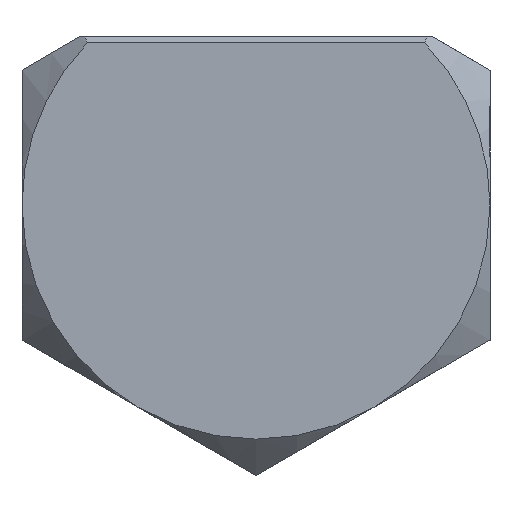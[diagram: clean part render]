
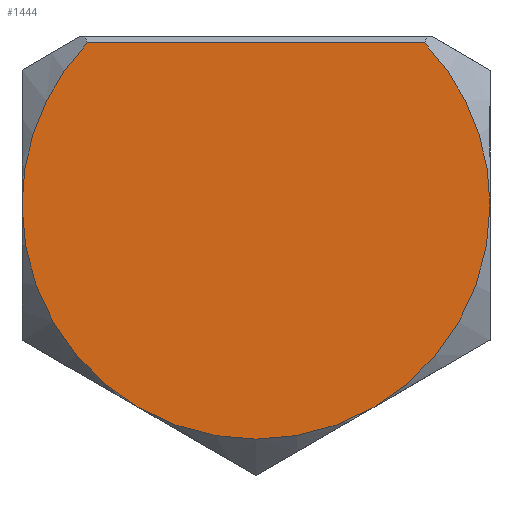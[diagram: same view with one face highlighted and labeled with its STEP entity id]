
A CAD part, front view. The second image highlights one B-rep face of the part: STEP entity #1444.
In plain terms, the highlighted planar face has unit normal (0, -1, 0).
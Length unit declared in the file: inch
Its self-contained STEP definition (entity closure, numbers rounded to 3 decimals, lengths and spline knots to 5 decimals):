
#71=PLANE('',#1595);
#225=FACE_OUTER_BOUND('',#313,.T.);
#313=EDGE_LOOP('',(#1137,#1138,#1139,#1140,#1141,#1142));
#388=LINE('',#2345,#448);
#448=VECTOR('',#1779,0.3937);
#502=CIRCLE('',#1557,0.75);
#518=CIRCLE('',#1587,0.75);
#519=CIRCLE('',#1589,0.75);
#520=CIRCLE('',#1591,0.75);
#521=CIRCLE('',#1594,0.75);
#607=VERTEX_POINT('',#2342);
#608=VERTEX_POINT('',#2344);
#610=VERTEX_POINT('',#2350);
#618=VERTEX_POINT('',#2378);
#626=VERTEX_POINT('',#2407);
#631=VERTEX_POINT('',#2424);
#771=EDGE_CURVE('',#607,#608,#388,.T.);
#775=EDGE_CURVE('',#610,#607,#502,.T.);
#811=EDGE_CURVE('',#608,#631,#518,.T.);
#812=EDGE_CURVE('',#631,#626,#519,.T.);
#813=EDGE_CURVE('',#626,#618,#520,.T.);
#814=EDGE_CURVE('',#618,#610,#521,.T.);
#1137=ORIENTED_EDGE('',*,*,#771,.F.);
#1138=ORIENTED_EDGE('',*,*,#775,.F.);
#1139=ORIENTED_EDGE('',*,*,#814,.F.);
#1140=ORIENTED_EDGE('',*,*,#813,.F.);
#1141=ORIENTED_EDGE('',*,*,#812,.F.);
#1142=ORIENTED_EDGE('',*,*,#811,.F.);
#1444=ADVANCED_FACE('',(#225),#71,.T.);
#1557=AXIS2_PLACEMENT_3D('',#2354,#1786,#1787);
#1587=AXIS2_PLACEMENT_3D('',#2448,#1855,#1856);
#1589=AXIS2_PLACEMENT_3D('',#2450,#1859,#1860);
#1591=AXIS2_PLACEMENT_3D('',#2452,#1863,#1864);
#1594=AXIS2_PLACEMENT_3D('',#2455,#1869,#1870);
#1595=AXIS2_PLACEMENT_3D('',#2456,#1871,#1872);
#1779=DIRECTION('',(1.,0.,0.));
#1786=DIRECTION('center_axis',(0.,1.,0.));
#1787=DIRECTION('ref_axis',(0.,0.,1.));
#1855=DIRECTION('center_axis',(0.,1.,0.));
#1856=DIRECTION('ref_axis',(0.,0.,1.));
#1859=DIRECTION('center_axis',(0.,1.,0.));
#1860=DIRECTION('ref_axis',(0.,0.,1.));
#1863=DIRECTION('center_axis',(0.,1.,0.));
#1864=DIRECTION('ref_axis',(0.,0.,1.));
#1869=DIRECTION('center_axis',(0.,1.,0.));
#1870=DIRECTION('ref_axis',(0.,0.,1.));
#1871=DIRECTION('center_axis',(0.,-1.,0.));
#1872=DIRECTION('ref_axis',(0.,0.,-1.));
#2342=CARTESIAN_POINT('',(-0.54046,0.,0.52));
#2344=CARTESIAN_POINT('',(0.54046,0.,0.52));
#2345=CARTESIAN_POINT('',(0.28235,0.,0.52));
#2350=CARTESIAN_POINT('',(-0.75,0.,0.));
#2354=CARTESIAN_POINT('Origin',(0.,0.,0.));
#2378=CARTESIAN_POINT('',(-0.375,0.,-0.64952));
#2407=CARTESIAN_POINT('',(0.375,0.,-0.64952));
#2424=CARTESIAN_POINT('',(0.75,0.,0.));
#2448=CARTESIAN_POINT('Origin',(0.,0.,0.));
#2450=CARTESIAN_POINT('Origin',(0.,0.,0.));
#2452=CARTESIAN_POINT('Origin',(0.,0.,0.));
#2455=CARTESIAN_POINT('Origin',(0.,0.,0.));
#2456=CARTESIAN_POINT('Origin',(0.,0.,0.));
